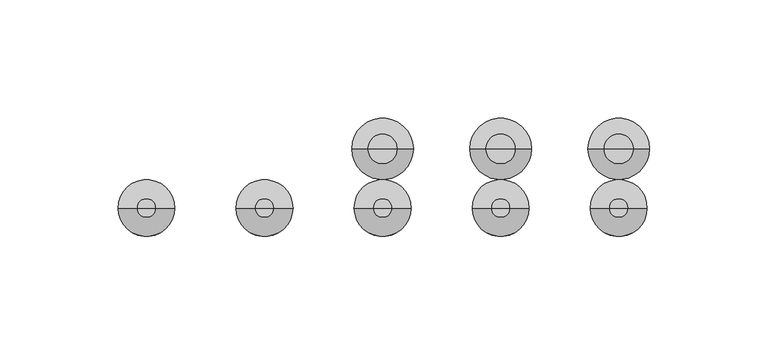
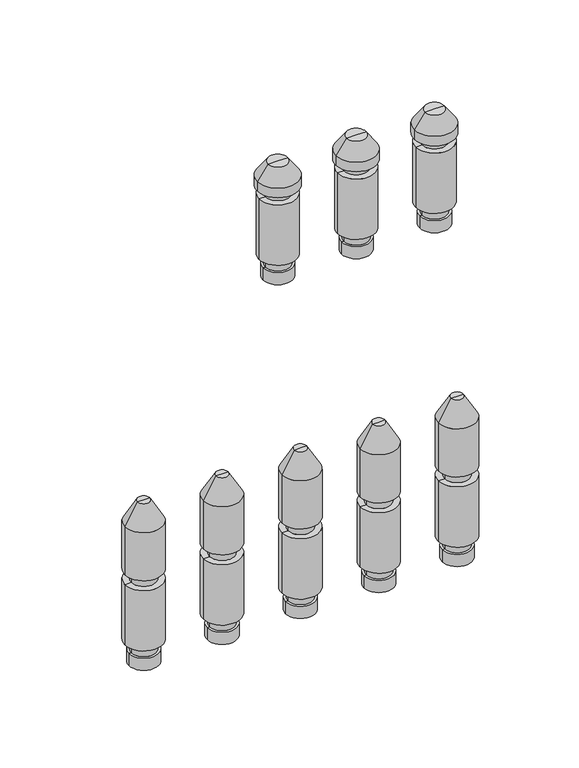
"""IFC4 building model written with IfcOpenShell, lengths in millimetres: valve geometry."""

from ifc_helpers import new_model, si_unit, frame, origin, place, context, project, spatial, polyline, circle_curve, source, transform, mapped, element, save
from ifc_brep_helpers import plane_surface, cylinder_surface, revolved_surface, advanced_brep


def valve_ba84b301(model_context):
    return source(origin(), model_context, "Body", "AdvancedBrep", [
        advanced_brep(
        [(428.5, 0.0, -35.11267), (447.5, 0.0, -35.11267), (438.0, 0.0, -35.11267), (428.5, 0.0, -27.0369646), (447.5, 0.0, -27.0369646), (430.0, 0.0, -27.0369646), (446.0, 0.0, -27.0369646), (430.0, 0.0, -20.330253), (446.0, 0.0, -20.330253), (426.0, 0.0, -20.330253), (450.0, 0.0, -20.330253), (426.0, 0.0, 20.330253), (450.0, 0.0, 20.330253), (430.0, 0.0, 20.330253), (446.0, 0.0, 20.330253), (430.0, 0.0, 27.0474786), (446.0, 0.0, 27.0474786), (426.0, 0.0, 27.0474786), (450.0, 0.0, 27.0474786), (426.0, 0.0, 59.4084325), (450.0, 0.0, 59.4084325), (434.0, 0.0, 73.264839), (442.0, 0.0, 73.264839), (438.0, 0.0, 73.264839)],
        [
            (0, 1, circle_curve(frame((438.0, 0.0, -35.11267), z_axis=(0.0, 0.0, -1.0), x_axis=(1.0, 0.0, 0.0)), 9.5)),
            (1, 2),
            (2, 0),
            (1, 0, circle_curve(frame((438.0, 0.0, -35.11267), z_axis=(0.0, 0.0, -1.0), x_axis=(1.0, 0.0, 0.0)), 9.5)),
            (3, 4, circle_curve(frame((438.0, 0.0, -27.0369646), z_axis=(0.0, 0.0, -1.0), x_axis=(1.0, 0.0, 0.0)), 9.5)),
            (4, 1),
            (0, 3),
            (4, 3, circle_curve(frame((438.0, 0.0, -27.0369646), z_axis=(0.0, 0.0, -1.0), x_axis=(1.0, 0.0, 0.0)), 9.5)),
            (5, 6, circle_curve(frame((438.0, 0.0, -27.0369646), z_axis=(0.0, 0.0, -1.0), x_axis=(1.0, 0.0, 0.0)), 8.0)),
            (6, 4),
            (3, 5),
            (6, 5, circle_curve(frame((438.0, 0.0, -27.0369646), z_axis=(0.0, 0.0, -1.0), x_axis=(1.0, 0.0, 0.0)), 8.0)),
            (7, 8, circle_curve(frame((438.0, 0.0, -20.330253), z_axis=(0.0, 0.0, -1.0), x_axis=(1.0, 0.0, 0.0)), 8.0)),
            (8, 6),
            (5, 7),
            (8, 7, circle_curve(frame((438.0, 0.0, -20.330253), z_axis=(0.0, 0.0, -1.0), x_axis=(1.0, 0.0, 0.0)), 8.0)),
            (9, 10, circle_curve(frame((438.0, 0.0, -20.330253), z_axis=(0.0, 0.0, -1.0), x_axis=(1.0, 0.0, 0.0)), 12.0)),
            (10, 8),
            (7, 9),
            (10, 9, circle_curve(frame((438.0, 0.0, -20.330253), z_axis=(0.0, 0.0, -1.0), x_axis=(1.0, 0.0, 0.0)), 12.0)),
            (11, 12, circle_curve(frame((438.0, 0.0, 20.330253), z_axis=(0.0, 0.0, -1.0), x_axis=(1.0, 0.0, 0.0)), 12.0)),
            (12, 10),
            (9, 11),
            (12, 11, circle_curve(frame((438.0, 0.0, 20.330253), z_axis=(0.0, 0.0, -1.0), x_axis=(1.0, 0.0, 0.0)), 12.0)),
            (13, 14, circle_curve(frame((438.0, 0.0, 20.330253), z_axis=(0.0, 0.0, -1.0), x_axis=(1.0, 0.0, 0.0)), 8.0)),
            (14, 12),
            (11, 13),
            (14, 13, circle_curve(frame((438.0, 0.0, 20.330253), z_axis=(0.0, 0.0, -1.0), x_axis=(1.0, 0.0, 0.0)), 8.0)),
            (15, 16, circle_curve(frame((438.0, 0.0, 27.0474786), z_axis=(0.0, 0.0, -1.0), x_axis=(1.0, 0.0, 0.0)), 8.0)),
            (16, 14),
            (13, 15),
            (16, 15, circle_curve(frame((438.0, 0.0, 27.0474786), z_axis=(0.0, 0.0, -1.0), x_axis=(1.0, 0.0, 0.0)), 8.0)),
            (17, 18, circle_curve(frame((438.0, 0.0, 27.0474786), z_axis=(0.0, 0.0, -1.0), x_axis=(1.0, 0.0, 0.0)), 12.0)),
            (18, 16),
            (15, 17),
            (18, 17, circle_curve(frame((438.0, 0.0, 27.0474786), z_axis=(0.0, 0.0, -1.0), x_axis=(1.0, 0.0, 0.0)), 12.0)),
            (19, 20, circle_curve(frame((438.0, 0.0, 59.4084325), z_axis=(0.0, 0.0, -1.0), x_axis=(1.0, 0.0, 0.0)), 12.0)),
            (20, 18),
            (17, 19),
            (20, 19, circle_curve(frame((438.0, 0.0, 59.4084325), z_axis=(0.0, 0.0, -1.0), x_axis=(1.0, 0.0, 0.0)), 12.0)),
            (21, 22, circle_curve(frame((438.0, 0.0, 73.264839), z_axis=(0.0, 0.0, -1.0), x_axis=(1.0, 0.0, 0.0)), 4.0)),
            (22, 20),
            (19, 21),
            (22, 21, circle_curve(frame((438.0, 0.0, 73.264839), z_axis=(0.0, 0.0, -1.0), x_axis=(1.0, 0.0, 0.0)), 4.0)),
            (23, 22),
            (21, 23),
        ],
        [
            plane_surface(frame((438.0, 0.0, -35.11267), z_axis=(0.0, 0.0, -1.0), x_axis=(1.0, 0.0, 0.0))),
            cylinder_surface(frame((438.0, 0.0, 58.264839), z_axis=(0.0, 0.0, 1.0), x_axis=(1.0, 0.0, 0.0)), 9.5),
            plane_surface(frame((438.0, 0.0, -27.0369646), z_axis=(0.0, 0.0, 1.0), x_axis=(1.0, 0.0, 0.0))),
            cylinder_surface(frame((438.0, 0.0, 58.264839), z_axis=(0.0, 0.0, 1.0), x_axis=(1.0, 0.0, 0.0)), 8.0),
            plane_surface(frame((438.0, 0.0, -20.330253), z_axis=(0.0, 0.0, -1.0), x_axis=(1.0, 0.0, 0.0))),
            cylinder_surface(frame((438.0, 0.0, 58.264839), z_axis=(0.0, 0.0, 1.0), x_axis=(1.0, 0.0, 0.0)), 12.0),
            plane_surface(frame((438.0, 0.0, 20.330253), z_axis=(0.0, 0.0, 1.0), x_axis=(1.0, 0.0, 0.0))),
            plane_surface(frame((438.0, 0.0, 27.0474786), z_axis=(0.0, 0.0, -1.0), x_axis=(1.0, 0.0, 0.0))),
            revolved_surface(polyline([(450.0, 0.0, 59.4084325), (442.0, 0.0, 73.264839)]), (438.0, 0.0, 58.264839), (0.0, 0.0, 1.0)),
            plane_surface(frame((438.0, 0.0, 73.264839), z_axis=(0.0, 0.0, 1.0), x_axis=(1.0, 0.0, 0.0))),
        ],
        [
            (0, [[1, 2, 3]]),
            (0, [[4, -3, -2]]),
            (1, [[5, 6, -1, 7]]),
            (1, [[8, -7, -4, -6]]),
            (2, [[9, 10, -5, 11]]),
            (2, [[12, -11, -8, -10]]),
            (3, [[13, 14, -9, 15]]),
            (3, [[16, -15, -12, -14]]),
            (4, [[17, 18, -13, 19]]),
            (4, [[20, -19, -16, -18]]),
            (5, [[21, 22, -17, 23]]),
            (5, [[24, -23, -20, -22]]),
            (6, [[25, 26, -21, 27]]),
            (6, [[28, -27, -24, -26]]),
            (3, [[29, 30, -25, 31]]),
            (3, [[32, -31, -28, -30]]),
            (7, [[33, 34, -29, 35]]),
            (7, [[36, -35, -32, -34]]),
            (5, [[37, 38, -33, 39]]),
            (5, [[40, -39, -36, -38]]),
            (8, [[41, 42, -37, 43]]),
            (8, [[44, -43, -40, -42]]),
            (9, [[45, -41, 46]]),
            (9, [[-46, -44, -45]]),
        ],
    ),
        advanced_brep(
        [(378.5, 0.0, -35.11267), (397.5, 0.0, -35.11267), (388.0, 0.0, -35.11267), (378.5, 0.0, -27.0369646), (397.5, 0.0, -27.0369646), (380.0, 0.0, -27.0369646), (396.0, 0.0, -27.0369646), (380.0, 0.0, -20.330253), (396.0, 0.0, -20.330253), (376.0, 0.0, -20.330253), (400.0, 0.0, -20.330253), (376.0, 0.0, 20.330253), (400.0, 0.0, 20.330253), (380.0, 0.0, 20.330253), (396.0, 0.0, 20.330253), (380.0, 0.0, 27.0474786), (396.0, 0.0, 27.0474786), (376.0, 0.0, 27.0474786), (400.0, 0.0, 27.0474786), (376.0, 0.0, 59.4084325), (400.0, 0.0, 59.4084325), (384.0, 0.0, 73.264839), (392.0, 0.0, 73.264839), (388.0, 0.0, 73.264839)],
        [
            (0, 1, circle_curve(frame((388.0, 0.0, -35.11267), z_axis=(0.0, 0.0, -1.0), x_axis=(1.0, 0.0, 0.0)), 9.5)),
            (1, 2),
            (2, 0),
            (1, 0, circle_curve(frame((388.0, 0.0, -35.11267), z_axis=(0.0, 0.0, -1.0), x_axis=(1.0, 0.0, 0.0)), 9.5)),
            (3, 4, circle_curve(frame((388.0, 0.0, -27.0369646), z_axis=(0.0, 0.0, -1.0), x_axis=(1.0, 0.0, 0.0)), 9.5)),
            (4, 1),
            (0, 3),
            (4, 3, circle_curve(frame((388.0, 0.0, -27.0369646), z_axis=(0.0, 0.0, -1.0), x_axis=(1.0, 0.0, 0.0)), 9.5)),
            (5, 6, circle_curve(frame((388.0, 0.0, -27.0369646), z_axis=(0.0, 0.0, -1.0), x_axis=(1.0, 0.0, 0.0)), 8.0)),
            (6, 4),
            (3, 5),
            (6, 5, circle_curve(frame((388.0, 0.0, -27.0369646), z_axis=(0.0, 0.0, -1.0), x_axis=(1.0, 0.0, 0.0)), 8.0)),
            (7, 8, circle_curve(frame((388.0, 0.0, -20.330253), z_axis=(0.0, 0.0, -1.0), x_axis=(1.0, 0.0, 0.0)), 8.0)),
            (8, 6),
            (5, 7),
            (8, 7, circle_curve(frame((388.0, 0.0, -20.330253), z_axis=(0.0, 0.0, -1.0), x_axis=(1.0, 0.0, 0.0)), 8.0)),
            (9, 10, circle_curve(frame((388.0, 0.0, -20.330253), z_axis=(0.0, 0.0, -1.0), x_axis=(1.0, 0.0, 0.0)), 12.0)),
            (10, 8),
            (7, 9),
            (10, 9, circle_curve(frame((388.0, 0.0, -20.330253), z_axis=(0.0, 0.0, -1.0), x_axis=(1.0, 0.0, 0.0)), 12.0)),
            (11, 12, circle_curve(frame((388.0, 0.0, 20.330253), z_axis=(0.0, 0.0, -1.0), x_axis=(1.0, 0.0, 0.0)), 12.0)),
            (12, 10),
            (9, 11),
            (12, 11, circle_curve(frame((388.0, 0.0, 20.330253), z_axis=(0.0, 0.0, -1.0), x_axis=(1.0, 0.0, 0.0)), 12.0)),
            (13, 14, circle_curve(frame((388.0, 0.0, 20.330253), z_axis=(0.0, 0.0, -1.0), x_axis=(1.0, 0.0, 0.0)), 8.0)),
            (14, 12),
            (11, 13),
            (14, 13, circle_curve(frame((388.0, 0.0, 20.330253), z_axis=(0.0, 0.0, -1.0), x_axis=(1.0, 0.0, 0.0)), 8.0)),
            (15, 16, circle_curve(frame((388.0, 0.0, 27.0474786), z_axis=(0.0, 0.0, -1.0), x_axis=(1.0, 0.0, 0.0)), 8.0)),
            (16, 14),
            (13, 15),
            (16, 15, circle_curve(frame((388.0, 0.0, 27.0474786), z_axis=(0.0, 0.0, -1.0), x_axis=(1.0, 0.0, 0.0)), 8.0)),
            (17, 18, circle_curve(frame((388.0, 0.0, 27.0474786), z_axis=(0.0, 0.0, -1.0), x_axis=(1.0, 0.0, 0.0)), 12.0)),
            (18, 16),
            (15, 17),
            (18, 17, circle_curve(frame((388.0, 0.0, 27.0474786), z_axis=(0.0, 0.0, -1.0), x_axis=(1.0, 0.0, 0.0)), 12.0)),
            (19, 20, circle_curve(frame((388.0, 0.0, 59.4084325), z_axis=(0.0, 0.0, -1.0), x_axis=(1.0, 0.0, 0.0)), 12.0)),
            (20, 18),
            (17, 19),
            (20, 19, circle_curve(frame((388.0, 0.0, 59.4084325), z_axis=(0.0, 0.0, -1.0), x_axis=(1.0, 0.0, 0.0)), 12.0)),
            (21, 22, circle_curve(frame((388.0, 0.0, 73.264839), z_axis=(0.0, 0.0, -1.0), x_axis=(1.0, 0.0, 0.0)), 4.0)),
            (22, 20),
            (19, 21),
            (22, 21, circle_curve(frame((388.0, 0.0, 73.264839), z_axis=(0.0, 0.0, -1.0), x_axis=(1.0, 0.0, 0.0)), 4.0)),
            (23, 22),
            (21, 23),
        ],
        [
            plane_surface(frame((388.0, 0.0, -35.11267), z_axis=(0.0, 0.0, -1.0), x_axis=(1.0, 0.0, 0.0))),
            cylinder_surface(frame((388.0, 0.0, 58.264839), z_axis=(0.0, 0.0, 1.0), x_axis=(1.0, 0.0, 0.0)), 9.5),
            plane_surface(frame((388.0, 0.0, -27.0369646), z_axis=(0.0, 0.0, 1.0), x_axis=(1.0, 0.0, 0.0))),
            cylinder_surface(frame((388.0, 0.0, 58.264839), z_axis=(0.0, 0.0, 1.0), x_axis=(1.0, 0.0, 0.0)), 8.0),
            plane_surface(frame((388.0, 0.0, -20.330253), z_axis=(0.0, 0.0, -1.0), x_axis=(1.0, 0.0, 0.0))),
            cylinder_surface(frame((388.0, 0.0, 58.264839), z_axis=(0.0, 0.0, 1.0), x_axis=(1.0, 0.0, 0.0)), 12.0),
            plane_surface(frame((388.0, 0.0, 20.330253), z_axis=(0.0, 0.0, 1.0), x_axis=(1.0, 0.0, 0.0))),
            plane_surface(frame((388.0, 0.0, 27.0474786), z_axis=(0.0, 0.0, -1.0), x_axis=(1.0, 0.0, 0.0))),
            revolved_surface(polyline([(400.0, 0.0, 59.4084325), (392.0, 0.0, 73.264839)]), (388.0, 0.0, 58.264839), (0.0, 0.0, 1.0)),
            plane_surface(frame((388.0, 0.0, 73.264839), z_axis=(0.0, 0.0, 1.0), x_axis=(1.0, 0.0, 0.0))),
        ],
        [
            (0, [[1, 2, 3]]),
            (0, [[4, -3, -2]]),
            (1, [[5, 6, -1, 7]]),
            (1, [[8, -7, -4, -6]]),
            (2, [[9, 10, -5, 11]]),
            (2, [[12, -11, -8, -10]]),
            (3, [[13, 14, -9, 15]]),
            (3, [[16, -15, -12, -14]]),
            (4, [[17, 18, -13, 19]]),
            (4, [[20, -19, -16, -18]]),
            (5, [[21, 22, -17, 23]]),
            (5, [[24, -23, -20, -22]]),
            (6, [[25, 26, -21, 27]]),
            (6, [[28, -27, -24, -26]]),
            (3, [[29, 30, -25, 31]]),
            (3, [[32, -31, -28, -30]]),
            (7, [[33, 34, -29, 35]]),
            (7, [[36, -35, -32, -34]]),
            (5, [[37, 38, -33, 39]]),
            (5, [[40, -39, -36, -38]]),
            (8, [[41, 42, -37, 43]]),
            (8, [[44, -43, -40, -42]]),
            (9, [[45, -41, 46]]),
            (9, [[-46, -44, -45]]),
        ],
    ),
        advanced_brep(
        [(428.5, 25.0, 174.88733), (447.5, 25.0, 174.88733), (438.0, 25.0, 174.88733), (428.5, 25.0, 182.9630354), (447.5, 25.0, 182.9630354), (430.0, 25.0, 182.9630354), (446.0, 25.0, 182.9630354), (430.0, 25.0, 189.669747), (446.0, 25.0, 189.669747), (426.0, 25.0, 189.669747), (450.0, 25.0, 189.669747), (426.0, 25.0, 230.330253), (450.0, 25.0, 230.330253), (430.0, 25.0, 230.330253), (446.0, 25.0, 230.330253), (430.0, 25.0, 236.0474786), (446.0, 25.0, 236.0474786), (425.0, 25.0, 236.0474786), (451.0, 25.0, 236.0474786), (425.0, 25.0, 242.337955), (451.0, 25.0, 242.337955), (431.6551779, 25.0, 251.842534), (444.3448221, 25.0, 251.842534), (438.0, 25.0, 251.842534)],
        [
            (0, 1, circle_curve(frame((438.0, 25.0, 174.88733), z_axis=(0.0, 0.0, -1.0), x_axis=(1.0, 0.0, 0.0)), 9.5)),
            (1, 2),
            (2, 0),
            (1, 0, circle_curve(frame((438.0, 25.0, 174.88733), z_axis=(0.0, 0.0, -1.0), x_axis=(1.0, 0.0, 0.0)), 9.5)),
            (3, 4, circle_curve(frame((438.0, 25.0, 182.9630354), z_axis=(0.0, 0.0, -1.0), x_axis=(1.0, 0.0, 0.0)), 9.5)),
            (4, 1),
            (0, 3),
            (4, 3, circle_curve(frame((438.0, 25.0, 182.9630354), z_axis=(0.0, 0.0, -1.0), x_axis=(1.0, 0.0, 0.0)), 9.5)),
            (5, 6, circle_curve(frame((438.0, 25.0, 182.9630354), z_axis=(0.0, 0.0, -1.0), x_axis=(1.0, 0.0, 0.0)), 8.0)),
            (6, 4),
            (3, 5),
            (6, 5, circle_curve(frame((438.0, 25.0, 182.9630354), z_axis=(0.0, 0.0, -1.0), x_axis=(1.0, 0.0, 0.0)), 8.0)),
            (7, 8, circle_curve(frame((438.0, 25.0, 189.669747), z_axis=(0.0, 0.0, -1.0), x_axis=(1.0, 0.0, 0.0)), 8.0)),
            (8, 6),
            (5, 7),
            (8, 7, circle_curve(frame((438.0, 25.0, 189.669747), z_axis=(0.0, 0.0, -1.0), x_axis=(1.0, 0.0, 0.0)), 8.0)),
            (9, 10, circle_curve(frame((438.0, 25.0, 189.669747), z_axis=(0.0, 0.0, -1.0), x_axis=(1.0, 0.0, 0.0)), 12.0)),
            (10, 8),
            (7, 9),
            (10, 9, circle_curve(frame((438.0, 25.0, 189.669747), z_axis=(0.0, 0.0, -1.0), x_axis=(1.0, 0.0, 0.0)), 12.0)),
            (11, 12, circle_curve(frame((438.0, 25.0, 230.330253), z_axis=(0.0, 0.0, -1.0), x_axis=(1.0, 0.0, 0.0)), 12.0)),
            (12, 10),
            (9, 11),
            (12, 11, circle_curve(frame((438.0, 25.0, 230.330253), z_axis=(0.0, 0.0, -1.0), x_axis=(1.0, 0.0, 0.0)), 12.0)),
            (13, 14, circle_curve(frame((438.0, 25.0, 230.330253), z_axis=(0.0, 0.0, -1.0), x_axis=(1.0, 0.0, 0.0)), 8.0)),
            (14, 12),
            (11, 13),
            (14, 13, circle_curve(frame((438.0, 25.0, 230.330253), z_axis=(0.0, 0.0, -1.0), x_axis=(1.0, 0.0, 0.0)), 8.0)),
            (15, 16, circle_curve(frame((438.0, 25.0, 236.0474786), z_axis=(0.0, 0.0, -1.0), x_axis=(1.0, 0.0, 0.0)), 8.0)),
            (16, 14),
            (13, 15),
            (16, 15, circle_curve(frame((438.0, 25.0, 236.0474786), z_axis=(0.0, 0.0, -1.0), x_axis=(1.0, 0.0, 0.0)), 8.0)),
            (17, 18, circle_curve(frame((438.0, 25.0, 236.0474786), z_axis=(0.0, 0.0, -1.0), x_axis=(1.0, 0.0, 0.0)), 13.0)),
            (18, 16),
            (15, 17),
            (18, 17, circle_curve(frame((438.0, 25.0, 236.0474786), z_axis=(0.0, 0.0, -1.0), x_axis=(1.0, 0.0, 0.0)), 13.0)),
            (19, 20, circle_curve(frame((438.0, 25.0, 242.337955), z_axis=(0.0, 0.0, -1.0), x_axis=(1.0, 0.0, 0.0)), 13.0)),
            (20, 18),
            (17, 19),
            (20, 19, circle_curve(frame((438.0, 25.0, 242.337955), z_axis=(0.0, 0.0, -1.0), x_axis=(1.0, 0.0, 0.0)), 13.0)),
            (21, 22, circle_curve(frame((438.0, 25.0, 251.842534), z_axis=(0.0, 0.0, -1.0), x_axis=(1.0, 0.0, 0.0)), 6.3448221)),
            (22, 20),
            (19, 21),
            (22, 21, circle_curve(frame((438.0, 25.0, 251.842534), z_axis=(0.0, 0.0, -1.0), x_axis=(1.0, 0.0, 0.0)), 6.3448221)),
            (23, 22),
            (21, 23),
        ],
        [
            plane_surface(frame((438.0, 25.0, 174.88733), z_axis=(0.0, 0.0, -1.0), x_axis=(1.0, 0.0, 0.0))),
            cylinder_surface(frame((438.0, 25.0, 247.7026565), z_axis=(0.0, 0.0, 1.0), x_axis=(1.0, 0.0, 0.0)), 9.5),
            plane_surface(frame((438.0, 25.0, 182.9630354), z_axis=(0.0, 0.0, 1.0), x_axis=(1.0, 0.0, 0.0))),
            cylinder_surface(frame((438.0, 25.0, 247.7026565), z_axis=(0.0, 0.0, 1.0), x_axis=(1.0, 0.0, 0.0)), 8.0),
            plane_surface(frame((438.0, 25.0, 189.669747), z_axis=(0.0, 0.0, -1.0), x_axis=(1.0, 0.0, 0.0))),
            cylinder_surface(frame((438.0, 25.0, 247.7026565), z_axis=(0.0, 0.0, 1.0), x_axis=(1.0, 0.0, 0.0)), 12.0),
            plane_surface(frame((438.0, 25.0, 230.330253), z_axis=(0.0, 0.0, 1.0), x_axis=(1.0, 0.0, 0.0))),
            plane_surface(frame((438.0, 25.0, 236.0474786), z_axis=(0.0, 0.0, -1.0), x_axis=(1.0, 0.0, 0.0))),
            cylinder_surface(frame((438.0, 25.0, 247.7026565), z_axis=(0.0, 0.0, 1.0), x_axis=(1.0, 0.0, 0.0)), 13.0),
            revolved_surface(polyline([(451.0, 25.0, 242.337955), (444.3448221, 25.0, 251.842534)]), (438.0, 25.0, 247.7026565), (0.0, 0.0, 1.0)),
            plane_surface(frame((438.0, 25.0, 251.842534), z_axis=(0.0, 0.0, 1.0), x_axis=(1.0, 0.0, 0.0))),
        ],
        [
            (0, [[1, 2, 3]]),
            (0, [[4, -3, -2]]),
            (1, [[5, 6, -1, 7]]),
            (1, [[8, -7, -4, -6]]),
            (2, [[9, 10, -5, 11]]),
            (2, [[12, -11, -8, -10]]),
            (3, [[13, 14, -9, 15]]),
            (3, [[16, -15, -12, -14]]),
            (4, [[17, 18, -13, 19]]),
            (4, [[20, -19, -16, -18]]),
            (5, [[21, 22, -17, 23]]),
            (5, [[24, -23, -20, -22]]),
            (6, [[25, 26, -21, 27]]),
            (6, [[28, -27, -24, -26]]),
            (3, [[29, 30, -25, 31]]),
            (3, [[32, -31, -28, -30]]),
            (7, [[33, 34, -29, 35]]),
            (7, [[36, -35, -32, -34]]),
            (8, [[37, 38, -33, 39]]),
            (8, [[40, -39, -36, -38]]),
            (9, [[41, 42, -37, 43]]),
            (9, [[44, -43, -40, -42]]),
            (10, [[45, -41, 46]]),
            (10, [[-46, -44, -45]]),
        ],
    ),
        advanced_brep(
        [(378.5, 25.0, 174.88733), (397.5, 25.0, 174.88733), (388.0, 25.0, 174.88733), (378.5, 25.0, 182.9630354), (397.5, 25.0, 182.9630354), (380.0, 25.0, 182.9630354), (396.0, 25.0, 182.9630354), (380.0, 25.0, 189.669747), (396.0, 25.0, 189.669747), (376.0, 25.0, 189.669747), (400.0, 25.0, 189.669747), (376.0, 25.0, 230.330253), (400.0, 25.0, 230.330253), (380.0, 25.0, 230.330253), (396.0, 25.0, 230.330253), (380.0, 25.0, 236.0474786), (396.0, 25.0, 236.0474786), (375.0, 25.0, 236.0474786), (401.0, 25.0, 236.0474786), (375.0, 25.0, 242.337955), (401.0, 25.0, 242.337955), (381.6551779, 25.0, 251.842534), (394.3448221, 25.0, 251.842534), (388.0, 25.0, 251.842534)],
        [
            (0, 1, circle_curve(frame((388.0, 25.0, 174.88733), z_axis=(0.0, 0.0, -1.0), x_axis=(1.0, 0.0, 0.0)), 9.5)),
            (1, 2),
            (2, 0),
            (1, 0, circle_curve(frame((388.0, 25.0, 174.88733), z_axis=(0.0, 0.0, -1.0), x_axis=(1.0, 0.0, 0.0)), 9.5)),
            (3, 4, circle_curve(frame((388.0, 25.0, 182.9630354), z_axis=(0.0, 0.0, -1.0), x_axis=(1.0, 0.0, 0.0)), 9.5)),
            (4, 1),
            (0, 3),
            (4, 3, circle_curve(frame((388.0, 25.0, 182.9630354), z_axis=(0.0, 0.0, -1.0), x_axis=(1.0, 0.0, 0.0)), 9.5)),
            (5, 6, circle_curve(frame((388.0, 25.0, 182.9630354), z_axis=(0.0, 0.0, -1.0), x_axis=(1.0, 0.0, 0.0)), 8.0)),
            (6, 4),
            (3, 5),
            (6, 5, circle_curve(frame((388.0, 25.0, 182.9630354), z_axis=(0.0, 0.0, -1.0), x_axis=(1.0, 0.0, 0.0)), 8.0)),
            (7, 8, circle_curve(frame((388.0, 25.0, 189.669747), z_axis=(0.0, 0.0, -1.0), x_axis=(1.0, 0.0, 0.0)), 8.0)),
            (8, 6),
            (5, 7),
            (8, 7, circle_curve(frame((388.0, 25.0, 189.669747), z_axis=(0.0, 0.0, -1.0), x_axis=(1.0, 0.0, 0.0)), 8.0)),
            (9, 10, circle_curve(frame((388.0, 25.0, 189.669747), z_axis=(0.0, 0.0, -1.0), x_axis=(1.0, 0.0, 0.0)), 12.0)),
            (10, 8),
            (7, 9),
            (10, 9, circle_curve(frame((388.0, 25.0, 189.669747), z_axis=(0.0, 0.0, -1.0), x_axis=(1.0, 0.0, 0.0)), 12.0)),
            (11, 12, circle_curve(frame((388.0, 25.0, 230.330253), z_axis=(0.0, 0.0, -1.0), x_axis=(1.0, 0.0, 0.0)), 12.0)),
            (12, 10),
            (9, 11),
            (12, 11, circle_curve(frame((388.0, 25.0, 230.330253), z_axis=(0.0, 0.0, -1.0), x_axis=(1.0, 0.0, 0.0)), 12.0)),
            (13, 14, circle_curve(frame((388.0, 25.0, 230.330253), z_axis=(0.0, 0.0, -1.0), x_axis=(1.0, 0.0, 0.0)), 8.0)),
            (14, 12),
            (11, 13),
            (14, 13, circle_curve(frame((388.0, 25.0, 230.330253), z_axis=(0.0, 0.0, -1.0), x_axis=(1.0, 0.0, 0.0)), 8.0)),
            (15, 16, circle_curve(frame((388.0, 25.0, 236.0474786), z_axis=(0.0, 0.0, -1.0), x_axis=(1.0, 0.0, 0.0)), 8.0)),
            (16, 14),
            (13, 15),
            (16, 15, circle_curve(frame((388.0, 25.0, 236.0474786), z_axis=(0.0, 0.0, -1.0), x_axis=(1.0, 0.0, 0.0)), 8.0)),
            (17, 18, circle_curve(frame((388.0, 25.0, 236.0474786), z_axis=(0.0, 0.0, -1.0), x_axis=(1.0, 0.0, 0.0)), 13.0)),
            (18, 16),
            (15, 17),
            (18, 17, circle_curve(frame((388.0, 25.0, 236.0474786), z_axis=(0.0, 0.0, -1.0), x_axis=(1.0, 0.0, 0.0)), 13.0)),
            (19, 20, circle_curve(frame((388.0, 25.0, 242.337955), z_axis=(0.0, 0.0, -1.0), x_axis=(1.0, 0.0, 0.0)), 13.0)),
            (20, 18),
            (17, 19),
            (20, 19, circle_curve(frame((388.0, 25.0, 242.337955), z_axis=(0.0, 0.0, -1.0), x_axis=(1.0, 0.0, 0.0)), 13.0)),
            (21, 22, circle_curve(frame((388.0, 25.0, 251.842534), z_axis=(0.0, 0.0, -1.0), x_axis=(1.0, 0.0, 0.0)), 6.3448221)),
            (22, 20),
            (19, 21),
            (22, 21, circle_curve(frame((388.0, 25.0, 251.842534), z_axis=(0.0, 0.0, -1.0), x_axis=(1.0, 0.0, 0.0)), 6.3448221)),
            (23, 22),
            (21, 23),
        ],
        [
            plane_surface(frame((388.0, 25.0, 174.88733), z_axis=(0.0, 0.0, -1.0), x_axis=(1.0, 0.0, 0.0))),
            cylinder_surface(frame((388.0, 25.0, 247.7026565), z_axis=(0.0, 0.0, 1.0), x_axis=(1.0, 0.0, 0.0)), 9.5),
            plane_surface(frame((388.0, 25.0, 182.9630354), z_axis=(0.0, 0.0, 1.0), x_axis=(1.0, 0.0, 0.0))),
            cylinder_surface(frame((388.0, 25.0, 247.7026565), z_axis=(0.0, 0.0, 1.0), x_axis=(1.0, 0.0, 0.0)), 8.0),
            plane_surface(frame((388.0, 25.0, 189.669747), z_axis=(0.0, 0.0, -1.0), x_axis=(1.0, 0.0, 0.0))),
            cylinder_surface(frame((388.0, 25.0, 247.7026565), z_axis=(0.0, 0.0, 1.0), x_axis=(1.0, 0.0, 0.0)), 12.0),
            plane_surface(frame((388.0, 25.0, 230.330253), z_axis=(0.0, 0.0, 1.0), x_axis=(1.0, 0.0, 0.0))),
            plane_surface(frame((388.0, 25.0, 236.0474786), z_axis=(0.0, 0.0, -1.0), x_axis=(1.0, 0.0, 0.0))),
            cylinder_surface(frame((388.0, 25.0, 247.7026565), z_axis=(0.0, 0.0, 1.0), x_axis=(1.0, 0.0, 0.0)), 13.0),
            revolved_surface(polyline([(401.0, 25.0, 242.337955), (394.3448221, 25.0, 251.842534)]), (388.0, 25.0, 247.7026565), (0.0, 0.0, 1.0)),
            plane_surface(frame((388.0, 25.0, 251.842534), z_axis=(0.0, 0.0, 1.0), x_axis=(1.0, 0.0, 0.0))),
        ],
        [
            (0, [[1, 2, 3]]),
            (0, [[4, -3, -2]]),
            (1, [[5, 6, -1, 7]]),
            (1, [[8, -7, -4, -6]]),
            (2, [[9, 10, -5, 11]]),
            (2, [[12, -11, -8, -10]]),
            (3, [[13, 14, -9, 15]]),
            (3, [[16, -15, -12, -14]]),
            (4, [[17, 18, -13, 19]]),
            (4, [[20, -19, -16, -18]]),
            (5, [[21, 22, -17, 23]]),
            (5, [[24, -23, -20, -22]]),
            (6, [[25, 26, -21, 27]]),
            (6, [[28, -27, -24, -26]]),
            (3, [[29, 30, -25, 31]]),
            (3, [[32, -31, -28, -30]]),
            (7, [[33, 34, -29, 35]]),
            (7, [[36, -35, -32, -34]]),
            (8, [[37, 38, -33, 39]]),
            (8, [[40, -39, -36, -38]]),
            (9, [[41, 42, -37, 43]]),
            (9, [[44, -43, -40, -42]]),
            (10, [[45, -41, 46]]),
            (10, [[-46, -44, -45]]),
        ],
    ),
        advanced_brep(
        [(328.5, 0.0, -35.11267), (347.5, 0.0, -35.11267), (338.0, 0.0, -35.11267), (328.5, 0.0, -27.0369646), (347.5, 0.0, -27.0369646), (330.0, 0.0, -27.0369646), (346.0, 0.0, -27.0369646), (330.0, 0.0, -20.330253), (346.0, 0.0, -20.330253), (326.0, 0.0, -20.330253), (350.0, 0.0, -20.330253), (326.0, 0.0, 20.330253), (350.0, 0.0, 20.330253), (330.0, 0.0, 20.330253), (346.0, 0.0, 20.330253), (330.0, 0.0, 27.0474786), (346.0, 0.0, 27.0474786), (326.0, 0.0, 27.0474786), (350.0, 0.0, 27.0474786), (326.0, 0.0, 59.4084325), (350.0, 0.0, 59.4084325), (334.0, 0.0, 73.264839), (342.0, 0.0, 73.264839), (338.0, 0.0, 73.264839)],
        [
            (0, 1, circle_curve(frame((338.0, 0.0, -35.11267), z_axis=(0.0, 0.0, -1.0), x_axis=(1.0, 0.0, 0.0)), 9.5)),
            (1, 2),
            (2, 0),
            (1, 0, circle_curve(frame((338.0, 0.0, -35.11267), z_axis=(0.0, 0.0, -1.0), x_axis=(1.0, 0.0, 0.0)), 9.5)),
            (3, 4, circle_curve(frame((338.0, 0.0, -27.0369646), z_axis=(0.0, 0.0, -1.0), x_axis=(1.0, 0.0, 0.0)), 9.5)),
            (4, 1),
            (0, 3),
            (4, 3, circle_curve(frame((338.0, 0.0, -27.0369646), z_axis=(0.0, 0.0, -1.0), x_axis=(1.0, 0.0, 0.0)), 9.5)),
            (5, 6, circle_curve(frame((338.0, 0.0, -27.0369646), z_axis=(0.0, 0.0, -1.0), x_axis=(1.0, 0.0, 0.0)), 8.0)),
            (6, 4),
            (3, 5),
            (6, 5, circle_curve(frame((338.0, 0.0, -27.0369646), z_axis=(0.0, 0.0, -1.0), x_axis=(1.0, 0.0, 0.0)), 8.0)),
            (7, 8, circle_curve(frame((338.0, 0.0, -20.330253), z_axis=(0.0, 0.0, -1.0), x_axis=(1.0, 0.0, 0.0)), 8.0)),
            (8, 6),
            (5, 7),
            (8, 7, circle_curve(frame((338.0, 0.0, -20.330253), z_axis=(0.0, 0.0, -1.0), x_axis=(1.0, 0.0, 0.0)), 8.0)),
            (9, 10, circle_curve(frame((338.0, 0.0, -20.330253), z_axis=(0.0, 0.0, -1.0), x_axis=(1.0, 0.0, 0.0)), 12.0)),
            (10, 8),
            (7, 9),
            (10, 9, circle_curve(frame((338.0, 0.0, -20.330253), z_axis=(0.0, 0.0, -1.0), x_axis=(1.0, 0.0, 0.0)), 12.0)),
            (11, 12, circle_curve(frame((338.0, 0.0, 20.330253), z_axis=(0.0, 0.0, -1.0), x_axis=(1.0, 0.0, 0.0)), 12.0)),
            (12, 10),
            (9, 11),
            (12, 11, circle_curve(frame((338.0, 0.0, 20.330253), z_axis=(0.0, 0.0, -1.0), x_axis=(1.0, 0.0, 0.0)), 12.0)),
            (13, 14, circle_curve(frame((338.0, 0.0, 20.330253), z_axis=(0.0, 0.0, -1.0), x_axis=(1.0, 0.0, 0.0)), 8.0)),
            (14, 12),
            (11, 13),
            (14, 13, circle_curve(frame((338.0, 0.0, 20.330253), z_axis=(0.0, 0.0, -1.0), x_axis=(1.0, 0.0, 0.0)), 8.0)),
            (15, 16, circle_curve(frame((338.0, 0.0, 27.0474786), z_axis=(0.0, 0.0, -1.0), x_axis=(1.0, 0.0, 0.0)), 8.0)),
            (16, 14),
            (13, 15),
            (16, 15, circle_curve(frame((338.0, 0.0, 27.0474786), z_axis=(0.0, 0.0, -1.0), x_axis=(1.0, 0.0, 0.0)), 8.0)),
            (17, 18, circle_curve(frame((338.0, 0.0, 27.0474786), z_axis=(0.0, 0.0, -1.0), x_axis=(1.0, 0.0, 0.0)), 12.0)),
            (18, 16),
            (15, 17),
            (18, 17, circle_curve(frame((338.0, 0.0, 27.0474786), z_axis=(0.0, 0.0, -1.0), x_axis=(1.0, 0.0, 0.0)), 12.0)),
            (19, 20, circle_curve(frame((338.0, 0.0, 59.4084325), z_axis=(0.0, 0.0, -1.0), x_axis=(1.0, 0.0, 0.0)), 12.0)),
            (20, 18),
            (17, 19),
            (20, 19, circle_curve(frame((338.0, 0.0, 59.4084325), z_axis=(0.0, 0.0, -1.0), x_axis=(1.0, 0.0, 0.0)), 12.0)),
            (21, 22, circle_curve(frame((338.0, 0.0, 73.264839), z_axis=(0.0, 0.0, -1.0), x_axis=(1.0, 0.0, 0.0)), 4.0)),
            (22, 20),
            (19, 21),
            (22, 21, circle_curve(frame((338.0, 0.0, 73.264839), z_axis=(0.0, 0.0, -1.0), x_axis=(1.0, 0.0, 0.0)), 4.0)),
            (23, 22),
            (21, 23),
        ],
        [
            plane_surface(frame((338.0, 0.0, -35.11267), z_axis=(0.0, 0.0, -1.0), x_axis=(1.0, 0.0, 0.0))),
            cylinder_surface(frame((338.0, 0.0, 58.264839), z_axis=(0.0, 0.0, 1.0), x_axis=(1.0, 0.0, 0.0)), 9.5),
            plane_surface(frame((338.0, 0.0, -27.0369646), z_axis=(0.0, 0.0, 1.0), x_axis=(1.0, 0.0, 0.0))),
            cylinder_surface(frame((338.0, 0.0, 58.264839), z_axis=(0.0, 0.0, 1.0), x_axis=(1.0, 0.0, 0.0)), 8.0),
            plane_surface(frame((338.0, 0.0, -20.330253), z_axis=(0.0, 0.0, -1.0), x_axis=(1.0, 0.0, 0.0))),
            cylinder_surface(frame((338.0, 0.0, 58.264839), z_axis=(0.0, 0.0, 1.0), x_axis=(1.0, 0.0, 0.0)), 12.0),
            plane_surface(frame((338.0, 0.0, 20.330253), z_axis=(0.0, 0.0, 1.0), x_axis=(1.0, 0.0, 0.0))),
            plane_surface(frame((338.0, 0.0, 27.0474786), z_axis=(0.0, 0.0, -1.0), x_axis=(1.0, 0.0, 0.0))),
            revolved_surface(polyline([(350.0, 0.0, 59.4084325), (342.0, 0.0, 73.264839)]), (338.0, 0.0, 58.264839), (0.0, 0.0, 1.0)),
            plane_surface(frame((338.0, 0.0, 73.264839), z_axis=(0.0, 0.0, 1.0), x_axis=(1.0, 0.0, 0.0))),
        ],
        [
            (0, [[1, 2, 3]]),
            (0, [[4, -3, -2]]),
            (1, [[5, 6, -1, 7]]),
            (1, [[8, -7, -4, -6]]),
            (2, [[9, 10, -5, 11]]),
            (2, [[12, -11, -8, -10]]),
            (3, [[13, 14, -9, 15]]),
            (3, [[16, -15, -12, -14]]),
            (4, [[17, 18, -13, 19]]),
            (4, [[20, -19, -16, -18]]),
            (5, [[21, 22, -17, 23]]),
            (5, [[24, -23, -20, -22]]),
            (6, [[25, 26, -21, 27]]),
            (6, [[28, -27, -24, -26]]),
            (3, [[29, 30, -25, 31]]),
            (3, [[32, -31, -28, -30]]),
            (7, [[33, 34, -29, 35]]),
            (7, [[36, -35, -32, -34]]),
            (5, [[37, 38, -33, 39]]),
            (5, [[40, -39, -36, -38]]),
            (8, [[41, 42, -37, 43]]),
            (8, [[44, -43, -40, -42]]),
            (9, [[45, -41, 46]]),
            (9, [[-46, -44, -45]]),
        ],
    ),
        advanced_brep(
        [(328.5, 25.0, 174.88733), (347.5, 25.0, 174.88733), (338.0, 25.0, 174.88733), (328.5, 25.0, 182.9630354), (347.5, 25.0, 182.9630354), (330.0, 25.0, 182.9630354), (346.0, 25.0, 182.9630354), (330.0, 25.0, 189.669747), (346.0, 25.0, 189.669747), (326.0, 25.0, 189.669747), (350.0, 25.0, 189.669747), (326.0, 25.0, 230.330253), (350.0, 25.0, 230.330253), (330.0, 25.0, 230.330253), (346.0, 25.0, 230.330253), (330.0, 25.0, 236.0474786), (346.0, 25.0, 236.0474786), (325.0, 25.0, 236.0474786), (351.0, 25.0, 236.0474786), (325.0, 25.0, 242.337955), (351.0, 25.0, 242.337955), (331.6551779, 25.0, 251.842534), (344.3448221, 25.0, 251.842534), (338.0, 25.0, 251.842534)],
        [
            (0, 1, circle_curve(frame((338.0, 25.0, 174.88733), z_axis=(0.0, 0.0, -1.0), x_axis=(1.0, 0.0, 0.0)), 9.5)),
            (1, 2),
            (2, 0),
            (1, 0, circle_curve(frame((338.0, 25.0, 174.88733), z_axis=(0.0, 0.0, -1.0), x_axis=(1.0, 0.0, 0.0)), 9.5)),
            (3, 4, circle_curve(frame((338.0, 25.0, 182.9630354), z_axis=(0.0, 0.0, -1.0), x_axis=(1.0, 0.0, 0.0)), 9.5)),
            (4, 1),
            (0, 3),
            (4, 3, circle_curve(frame((338.0, 25.0, 182.9630354), z_axis=(0.0, 0.0, -1.0), x_axis=(1.0, 0.0, 0.0)), 9.5)),
            (5, 6, circle_curve(frame((338.0, 25.0, 182.9630354), z_axis=(0.0, 0.0, -1.0), x_axis=(1.0, 0.0, 0.0)), 8.0)),
            (6, 4),
            (3, 5),
            (6, 5, circle_curve(frame((338.0, 25.0, 182.9630354), z_axis=(0.0, 0.0, -1.0), x_axis=(1.0, 0.0, 0.0)), 8.0)),
            (7, 8, circle_curve(frame((338.0, 25.0, 189.669747), z_axis=(0.0, 0.0, -1.0), x_axis=(1.0, 0.0, 0.0)), 8.0)),
            (8, 6),
            (5, 7),
            (8, 7, circle_curve(frame((338.0, 25.0, 189.669747), z_axis=(0.0, 0.0, -1.0), x_axis=(1.0, 0.0, 0.0)), 8.0)),
            (9, 10, circle_curve(frame((338.0, 25.0, 189.669747), z_axis=(0.0, 0.0, -1.0), x_axis=(1.0, 0.0, 0.0)), 12.0)),
            (10, 8),
            (7, 9),
            (10, 9, circle_curve(frame((338.0, 25.0, 189.669747), z_axis=(0.0, 0.0, -1.0), x_axis=(1.0, 0.0, 0.0)), 12.0)),
            (11, 12, circle_curve(frame((338.0, 25.0, 230.330253), z_axis=(0.0, 0.0, -1.0), x_axis=(1.0, 0.0, 0.0)), 12.0)),
            (12, 10),
            (9, 11),
            (12, 11, circle_curve(frame((338.0, 25.0, 230.330253), z_axis=(0.0, 0.0, -1.0), x_axis=(1.0, 0.0, 0.0)), 12.0)),
            (13, 14, circle_curve(frame((338.0, 25.0, 230.330253), z_axis=(0.0, 0.0, -1.0), x_axis=(1.0, 0.0, 0.0)), 8.0)),
            (14, 12),
            (11, 13),
            (14, 13, circle_curve(frame((338.0, 25.0, 230.330253), z_axis=(0.0, 0.0, -1.0), x_axis=(1.0, 0.0, 0.0)), 8.0)),
            (15, 16, circle_curve(frame((338.0, 25.0, 236.0474786), z_axis=(0.0, 0.0, -1.0), x_axis=(1.0, 0.0, 0.0)), 8.0)),
            (16, 14),
            (13, 15),
            (16, 15, circle_curve(frame((338.0, 25.0, 236.0474786), z_axis=(0.0, 0.0, -1.0), x_axis=(1.0, 0.0, 0.0)), 8.0)),
            (17, 18, circle_curve(frame((338.0, 25.0, 236.0474786), z_axis=(0.0, 0.0, -1.0), x_axis=(1.0, 0.0, 0.0)), 13.0)),
            (18, 16),
            (15, 17),
            (18, 17, circle_curve(frame((338.0, 25.0, 236.0474786), z_axis=(0.0, 0.0, -1.0), x_axis=(1.0, 0.0, 0.0)), 13.0)),
            (19, 20, circle_curve(frame((338.0, 25.0, 242.337955), z_axis=(0.0, 0.0, -1.0), x_axis=(1.0, 0.0, 0.0)), 13.0)),
            (20, 18),
            (17, 19),
            (20, 19, circle_curve(frame((338.0, 25.0, 242.337955), z_axis=(0.0, 0.0, -1.0), x_axis=(1.0, 0.0, 0.0)), 13.0)),
            (21, 22, circle_curve(frame((338.0, 25.0, 251.842534), z_axis=(0.0, 0.0, -1.0), x_axis=(1.0, 0.0, 0.0)), 6.3448221)),
            (22, 20),
            (19, 21),
            (22, 21, circle_curve(frame((338.0, 25.0, 251.842534), z_axis=(0.0, 0.0, -1.0), x_axis=(1.0, 0.0, 0.0)), 6.3448221)),
            (23, 22),
            (21, 23),
        ],
        [
            plane_surface(frame((338.0, 25.0, 174.88733), z_axis=(0.0, 0.0, -1.0), x_axis=(1.0, 0.0, 0.0))),
            cylinder_surface(frame((338.0, 25.0, 247.7026565), z_axis=(0.0, 0.0, 1.0), x_axis=(1.0, 0.0, 0.0)), 9.5),
            plane_surface(frame((338.0, 25.0, 182.9630354), z_axis=(0.0, 0.0, 1.0), x_axis=(1.0, 0.0, 0.0))),
            cylinder_surface(frame((338.0, 25.0, 247.7026565), z_axis=(0.0, 0.0, 1.0), x_axis=(1.0, 0.0, 0.0)), 8.0),
            plane_surface(frame((338.0, 25.0, 189.669747), z_axis=(0.0, 0.0, -1.0), x_axis=(1.0, 0.0, 0.0))),
            cylinder_surface(frame((338.0, 25.0, 247.7026565), z_axis=(0.0, 0.0, 1.0), x_axis=(1.0, 0.0, 0.0)), 12.0),
            plane_surface(frame((338.0, 25.0, 230.330253), z_axis=(0.0, 0.0, 1.0), x_axis=(1.0, 0.0, 0.0))),
            plane_surface(frame((338.0, 25.0, 236.0474786), z_axis=(0.0, 0.0, -1.0), x_axis=(1.0, 0.0, 0.0))),
            cylinder_surface(frame((338.0, 25.0, 247.7026565), z_axis=(0.0, 0.0, 1.0), x_axis=(1.0, 0.0, 0.0)), 13.0),
            revolved_surface(polyline([(351.0, 25.0, 242.337955), (344.3448221, 25.0, 251.842534)]), (338.0, 25.0, 247.7026565), (0.0, 0.0, 1.0)),
            plane_surface(frame((338.0, 25.0, 251.842534), z_axis=(0.0, 0.0, 1.0), x_axis=(1.0, 0.0, 0.0))),
        ],
        [
            (0, [[1, 2, 3]]),
            (0, [[4, -3, -2]]),
            (1, [[5, 6, -1, 7]]),
            (1, [[8, -7, -4, -6]]),
            (2, [[9, 10, -5, 11]]),
            (2, [[12, -11, -8, -10]]),
            (3, [[13, 14, -9, 15]]),
            (3, [[16, -15, -12, -14]]),
            (4, [[17, 18, -13, 19]]),
            (4, [[20, -19, -16, -18]]),
            (5, [[21, 22, -17, 23]]),
            (5, [[24, -23, -20, -22]]),
            (6, [[25, 26, -21, 27]]),
            (6, [[28, -27, -24, -26]]),
            (3, [[29, 30, -25, 31]]),
            (3, [[32, -31, -28, -30]]),
            (7, [[33, 34, -29, 35]]),
            (7, [[36, -35, -32, -34]]),
            (8, [[37, 38, -33, 39]]),
            (8, [[40, -39, -36, -38]]),
            (9, [[41, 42, -37, 43]]),
            (9, [[44, -43, -40, -42]]),
            (10, [[45, -41, 46]]),
            (10, [[-46, -44, -45]]),
        ],
    ),
        advanced_brep(
        [(278.5, 0.0, -35.11267), (297.5, 0.0, -35.11267), (288.0, 0.0, -35.11267), (278.5, 0.0, -27.0369646), (297.5, 0.0, -27.0369646), (280.0, 0.0, -27.0369646), (296.0, 0.0, -27.0369646), (280.0, 0.0, -20.330253), (296.0, 0.0, -20.330253), (276.0, 0.0, -20.330253), (300.0, 0.0, -20.330253), (276.0, 0.0, 20.330253), (300.0, 0.0, 20.330253), (280.0, 0.0, 20.330253), (296.0, 0.0, 20.330253), (280.0, 0.0, 27.0474786), (296.0, 0.0, 27.0474786), (276.0, 0.0, 27.0474786), (300.0, 0.0, 27.0474786), (276.0, 0.0, 59.4084325), (300.0, 0.0, 59.4084325), (284.0, 0.0, 73.264839), (292.0, 0.0, 73.264839), (288.0, 0.0, 73.264839)],
        [
            (0, 1, circle_curve(frame((288.0, 0.0, -35.11267), z_axis=(0.0, 0.0, -1.0), x_axis=(1.0, 0.0, 0.0)), 9.5)),
            (1, 2),
            (2, 0),
            (1, 0, circle_curve(frame((288.0, 0.0, -35.11267), z_axis=(0.0, 0.0, -1.0), x_axis=(1.0, 0.0, 0.0)), 9.5)),
            (3, 4, circle_curve(frame((288.0, 0.0, -27.0369646), z_axis=(0.0, 0.0, -1.0), x_axis=(1.0, 0.0, 0.0)), 9.5)),
            (4, 1),
            (0, 3),
            (4, 3, circle_curve(frame((288.0, 0.0, -27.0369646), z_axis=(0.0, 0.0, -1.0), x_axis=(1.0, 0.0, 0.0)), 9.5)),
            (5, 6, circle_curve(frame((288.0, 0.0, -27.0369646), z_axis=(0.0, 0.0, -1.0), x_axis=(1.0, 0.0, 0.0)), 8.0)),
            (6, 4),
            (3, 5),
            (6, 5, circle_curve(frame((288.0, 0.0, -27.0369646), z_axis=(0.0, 0.0, -1.0), x_axis=(1.0, 0.0, 0.0)), 8.0)),
            (7, 8, circle_curve(frame((288.0, 0.0, -20.330253), z_axis=(0.0, 0.0, -1.0), x_axis=(1.0, 0.0, 0.0)), 8.0)),
            (8, 6),
            (5, 7),
            (8, 7, circle_curve(frame((288.0, 0.0, -20.330253), z_axis=(0.0, 0.0, -1.0), x_axis=(1.0, 0.0, 0.0)), 8.0)),
            (9, 10, circle_curve(frame((288.0, 0.0, -20.330253), z_axis=(0.0, 0.0, -1.0), x_axis=(1.0, 0.0, 0.0)), 12.0)),
            (10, 8),
            (7, 9),
            (10, 9, circle_curve(frame((288.0, 0.0, -20.330253), z_axis=(0.0, 0.0, -1.0), x_axis=(1.0, 0.0, 0.0)), 12.0)),
            (11, 12, circle_curve(frame((288.0, 0.0, 20.330253), z_axis=(0.0, 0.0, -1.0), x_axis=(1.0, 0.0, 0.0)), 12.0)),
            (12, 10),
            (9, 11),
            (12, 11, circle_curve(frame((288.0, 0.0, 20.330253), z_axis=(0.0, 0.0, -1.0), x_axis=(1.0, 0.0, 0.0)), 12.0)),
            (13, 14, circle_curve(frame((288.0, 0.0, 20.330253), z_axis=(0.0, 0.0, -1.0), x_axis=(1.0, 0.0, 0.0)), 8.0)),
            (14, 12),
            (11, 13),
            (14, 13, circle_curve(frame((288.0, 0.0, 20.330253), z_axis=(0.0, 0.0, -1.0), x_axis=(1.0, 0.0, 0.0)), 8.0)),
            (15, 16, circle_curve(frame((288.0, 0.0, 27.0474786), z_axis=(0.0, 0.0, -1.0), x_axis=(1.0, 0.0, 0.0)), 8.0)),
            (16, 14),
            (13, 15),
            (16, 15, circle_curve(frame((288.0, 0.0, 27.0474786), z_axis=(0.0, 0.0, -1.0), x_axis=(1.0, 0.0, 0.0)), 8.0)),
            (17, 18, circle_curve(frame((288.0, 0.0, 27.0474786), z_axis=(0.0, 0.0, -1.0), x_axis=(1.0, 0.0, 0.0)), 12.0)),
            (18, 16),
            (15, 17),
            (18, 17, circle_curve(frame((288.0, 0.0, 27.0474786), z_axis=(0.0, 0.0, -1.0), x_axis=(1.0, 0.0, 0.0)), 12.0)),
            (19, 20, circle_curve(frame((288.0, 0.0, 59.4084325), z_axis=(0.0, 0.0, -1.0), x_axis=(1.0, 0.0, 0.0)), 12.0)),
            (20, 18),
            (17, 19),
            (20, 19, circle_curve(frame((288.0, 0.0, 59.4084325), z_axis=(0.0, 0.0, -1.0), x_axis=(1.0, 0.0, 0.0)), 12.0)),
            (21, 22, circle_curve(frame((288.0, 0.0, 73.264839), z_axis=(0.0, 0.0, -1.0), x_axis=(1.0, 0.0, 0.0)), 4.0)),
            (22, 20),
            (19, 21),
            (22, 21, circle_curve(frame((288.0, 0.0, 73.264839), z_axis=(0.0, 0.0, -1.0), x_axis=(1.0, 0.0, 0.0)), 4.0)),
            (23, 22),
            (21, 23),
        ],
        [
            plane_surface(frame((288.0, 0.0, -35.11267), z_axis=(0.0, 0.0, -1.0), x_axis=(1.0, 0.0, 0.0))),
            cylinder_surface(frame((288.0, 0.0, 58.264839), z_axis=(0.0, 0.0, 1.0), x_axis=(1.0, 0.0, 0.0)), 9.5),
            plane_surface(frame((288.0, 0.0, -27.0369646), z_axis=(0.0, 0.0, 1.0), x_axis=(1.0, 0.0, 0.0))),
            cylinder_surface(frame((288.0, 0.0, 58.264839), z_axis=(0.0, 0.0, 1.0), x_axis=(1.0, 0.0, 0.0)), 8.0),
            plane_surface(frame((288.0, 0.0, -20.330253), z_axis=(0.0, 0.0, -1.0), x_axis=(1.0, 0.0, 0.0))),
            cylinder_surface(frame((288.0, 0.0, 58.264839), z_axis=(0.0, 0.0, 1.0), x_axis=(1.0, 0.0, 0.0)), 12.0),
            plane_surface(frame((288.0, 0.0, 20.330253), z_axis=(0.0, 0.0, 1.0), x_axis=(1.0, 0.0, 0.0))),
            plane_surface(frame((288.0, 0.0, 27.0474786), z_axis=(0.0, 0.0, -1.0), x_axis=(1.0, 0.0, 0.0))),
            revolved_surface(polyline([(300.0, 0.0, 59.4084325), (292.0, 0.0, 73.264839)]), (288.0, 0.0, 58.264839), (0.0, 0.0, 1.0)),
            plane_surface(frame((288.0, 0.0, 73.264839), z_axis=(0.0, 0.0, 1.0), x_axis=(1.0, 0.0, 0.0))),
        ],
        [
            (0, [[1, 2, 3]]),
            (0, [[4, -3, -2]]),
            (1, [[5, 6, -1, 7]]),
            (1, [[8, -7, -4, -6]]),
            (2, [[9, 10, -5, 11]]),
            (2, [[12, -11, -8, -10]]),
            (3, [[13, 14, -9, 15]]),
            (3, [[16, -15, -12, -14]]),
            (4, [[17, 18, -13, 19]]),
            (4, [[20, -19, -16, -18]]),
            (5, [[21, 22, -17, 23]]),
            (5, [[24, -23, -20, -22]]),
            (6, [[25, 26, -21, 27]]),
            (6, [[28, -27, -24, -26]]),
            (3, [[29, 30, -25, 31]]),
            (3, [[32, -31, -28, -30]]),
            (7, [[33, 34, -29, 35]]),
            (7, [[36, -35, -32, -34]]),
            (5, [[37, 38, -33, 39]]),
            (5, [[40, -39, -36, -38]]),
            (8, [[41, 42, -37, 43]]),
            (8, [[44, -43, -40, -42]]),
            (9, [[45, -41, 46]]),
            (9, [[-46, -44, -45]]),
        ],
    ),
        advanced_brep(
        [(228.5, 0.0, -35.11267), (247.5, 0.0, -35.11267), (238.0, 0.0, -35.11267), (228.5, 0.0, -27.0369646), (247.5, 0.0, -27.0369646), (230.0, 0.0, -27.0369646), (246.0, 0.0, -27.0369646), (230.0, 0.0, -20.330253), (246.0, 0.0, -20.330253), (226.0, 0.0, -20.330253), (250.0, 0.0, -20.330253), (226.0, 0.0, 20.330253), (250.0, 0.0, 20.330253), (230.0, 0.0, 20.330253), (246.0, 0.0, 20.330253), (230.0, 0.0, 27.0474786), (246.0, 0.0, 27.0474786), (226.0, 0.0, 27.0474786), (250.0, 0.0, 27.0474786), (226.0, 0.0, 59.4084325), (250.0, 0.0, 59.4084325), (234.0, 0.0, 73.264839), (242.0, 0.0, 73.264839), (238.0, 0.0, 73.264839)],
        [
            (0, 1, circle_curve(frame((238.0, 0.0, -35.11267), z_axis=(0.0, 0.0, -1.0), x_axis=(1.0, 0.0, 0.0)), 9.5)),
            (1, 2),
            (2, 0),
            (1, 0, circle_curve(frame((238.0, 0.0, -35.11267), z_axis=(0.0, 0.0, -1.0), x_axis=(1.0, 0.0, 0.0)), 9.5)),
            (3, 4, circle_curve(frame((238.0, 0.0, -27.0369646), z_axis=(0.0, 0.0, -1.0), x_axis=(1.0, 0.0, 0.0)), 9.5)),
            (4, 1),
            (0, 3),
            (4, 3, circle_curve(frame((238.0, 0.0, -27.0369646), z_axis=(0.0, 0.0, -1.0), x_axis=(1.0, 0.0, 0.0)), 9.5)),
            (5, 6, circle_curve(frame((238.0, 0.0, -27.0369646), z_axis=(0.0, 0.0, -1.0), x_axis=(1.0, 0.0, 0.0)), 8.0)),
            (6, 4),
            (3, 5),
            (6, 5, circle_curve(frame((238.0, 0.0, -27.0369646), z_axis=(0.0, 0.0, -1.0), x_axis=(1.0, 0.0, 0.0)), 8.0)),
            (7, 8, circle_curve(frame((238.0, 0.0, -20.330253), z_axis=(0.0, 0.0, -1.0), x_axis=(1.0, 0.0, 0.0)), 8.0)),
            (8, 6),
            (5, 7),
            (8, 7, circle_curve(frame((238.0, 0.0, -20.330253), z_axis=(0.0, 0.0, -1.0), x_axis=(1.0, 0.0, 0.0)), 8.0)),
            (9, 10, circle_curve(frame((238.0, 0.0, -20.330253), z_axis=(0.0, 0.0, -1.0), x_axis=(1.0, 0.0, 0.0)), 12.0)),
            (10, 8),
            (7, 9),
            (10, 9, circle_curve(frame((238.0, 0.0, -20.330253), z_axis=(0.0, 0.0, -1.0), x_axis=(1.0, 0.0, 0.0)), 12.0)),
            (11, 12, circle_curve(frame((238.0, 0.0, 20.330253), z_axis=(0.0, 0.0, -1.0), x_axis=(1.0, 0.0, 0.0)), 12.0)),
            (12, 10),
            (9, 11),
            (12, 11, circle_curve(frame((238.0, 0.0, 20.330253), z_axis=(0.0, 0.0, -1.0), x_axis=(1.0, 0.0, 0.0)), 12.0)),
            (13, 14, circle_curve(frame((238.0, 0.0, 20.330253), z_axis=(0.0, 0.0, -1.0), x_axis=(1.0, 0.0, 0.0)), 8.0)),
            (14, 12),
            (11, 13),
            (14, 13, circle_curve(frame((238.0, 0.0, 20.330253), z_axis=(0.0, 0.0, -1.0), x_axis=(1.0, 0.0, 0.0)), 8.0)),
            (15, 16, circle_curve(frame((238.0, 0.0, 27.0474786), z_axis=(0.0, 0.0, -1.0), x_axis=(1.0, 0.0, 0.0)), 8.0)),
            (16, 14),
            (13, 15),
            (16, 15, circle_curve(frame((238.0, 0.0, 27.0474786), z_axis=(0.0, 0.0, -1.0), x_axis=(1.0, 0.0, 0.0)), 8.0)),
            (17, 18, circle_curve(frame((238.0, 0.0, 27.0474786), z_axis=(0.0, 0.0, -1.0), x_axis=(1.0, 0.0, 0.0)), 12.0)),
            (18, 16),
            (15, 17),
            (18, 17, circle_curve(frame((238.0, 0.0, 27.0474786), z_axis=(0.0, 0.0, -1.0), x_axis=(1.0, 0.0, 0.0)), 12.0)),
            (19, 20, circle_curve(frame((238.0, 0.0, 59.4084325), z_axis=(0.0, 0.0, -1.0), x_axis=(1.0, 0.0, 0.0)), 12.0)),
            (20, 18),
            (17, 19),
            (20, 19, circle_curve(frame((238.0, 0.0, 59.4084325), z_axis=(0.0, 0.0, -1.0), x_axis=(1.0, 0.0, 0.0)), 12.0)),
            (21, 22, circle_curve(frame((238.0, 0.0, 73.264839), z_axis=(0.0, 0.0, -1.0), x_axis=(1.0, 0.0, 0.0)), 4.0)),
            (22, 20),
            (19, 21),
            (22, 21, circle_curve(frame((238.0, 0.0, 73.264839), z_axis=(0.0, 0.0, -1.0), x_axis=(1.0, 0.0, 0.0)), 4.0)),
            (23, 22),
            (21, 23),
        ],
        [
            plane_surface(frame((238.0, 0.0, -35.11267), z_axis=(0.0, 0.0, -1.0), x_axis=(1.0, 0.0, 0.0))),
            cylinder_surface(frame((238.0, 0.0, 58.264839), z_axis=(0.0, 0.0, 1.0), x_axis=(1.0, 0.0, 0.0)), 9.5),
            plane_surface(frame((238.0, 0.0, -27.0369646), z_axis=(0.0, 0.0, 1.0), x_axis=(1.0, 0.0, 0.0))),
            cylinder_surface(frame((238.0, 0.0, 58.264839), z_axis=(0.0, 0.0, 1.0), x_axis=(1.0, 0.0, 0.0)), 8.0),
            plane_surface(frame((238.0, 0.0, -20.330253), z_axis=(0.0, 0.0, -1.0), x_axis=(1.0, 0.0, 0.0))),
            cylinder_surface(frame((238.0, 0.0, 58.264839), z_axis=(0.0, 0.0, 1.0), x_axis=(1.0, 0.0, 0.0)), 12.0),
            plane_surface(frame((238.0, 0.0, 20.330253), z_axis=(0.0, 0.0, 1.0), x_axis=(1.0, 0.0, 0.0))),
            plane_surface(frame((238.0, 0.0, 27.0474786), z_axis=(0.0, 0.0, -1.0), x_axis=(1.0, 0.0, 0.0))),
            revolved_surface(polyline([(250.0, 0.0, 59.4084325), (242.0, 0.0, 73.264839)]), (238.0, 0.0, 58.264839), (0.0, 0.0, 1.0)),
            plane_surface(frame((238.0, 0.0, 73.264839), z_axis=(0.0, 0.0, 1.0), x_axis=(1.0, 0.0, 0.0))),
        ],
        [
            (0, [[1, 2, 3]]),
            (0, [[4, -3, -2]]),
            (1, [[5, 6, -1, 7]]),
            (1, [[8, -7, -4, -6]]),
            (2, [[9, 10, -5, 11]]),
            (2, [[12, -11, -8, -10]]),
            (3, [[13, 14, -9, 15]]),
            (3, [[16, -15, -12, -14]]),
            (4, [[17, 18, -13, 19]]),
            (4, [[20, -19, -16, -18]]),
            (5, [[21, 22, -17, 23]]),
            (5, [[24, -23, -20, -22]]),
            (6, [[25, 26, -21, 27]]),
            (6, [[28, -27, -24, -26]]),
            (3, [[29, 30, -25, 31]]),
            (3, [[32, -31, -28, -30]]),
            (7, [[33, 34, -29, 35]]),
            (7, [[36, -35, -32, -34]]),
            (5, [[37, 38, -33, 39]]),
            (5, [[40, -39, -36, -38]]),
            (8, [[41, 42, -37, 43]]),
            (8, [[44, -43, -40, -42]]),
            (9, [[45, -41, 46]]),
            (9, [[-46, -44, -45]]),
        ],
    ),
    ])


if __name__ == "__main__":
    model = new_model("IFC4")
    model_context = context("Model", 3, world=origin())
    ifc_project = project(units=[si_unit("LENGTHUNIT", "METRE", prefix="MILLI")], contexts=[model_context])
    site = spatial("IfcSite", under=ifc_project)
    building = spatial("IfcBuilding", under=site)
    placement = place(None, origin())
    valve_shape = valve_ba84b301(model_context)
    element("IfcValve", 1, at=placement, inside=building, context=model_context, shape_type="MappedRepresentation", body=[
        mapped(valve_shape, transform((0.0, 0.0, 0.0), x_axis=(1.0, 0.0, 0.0), y_axis=(0.0, 1.0, 0.0), z_axis=(0.0, 0.0, 1.0))),
    ])
    save(model, "model.ifc")
